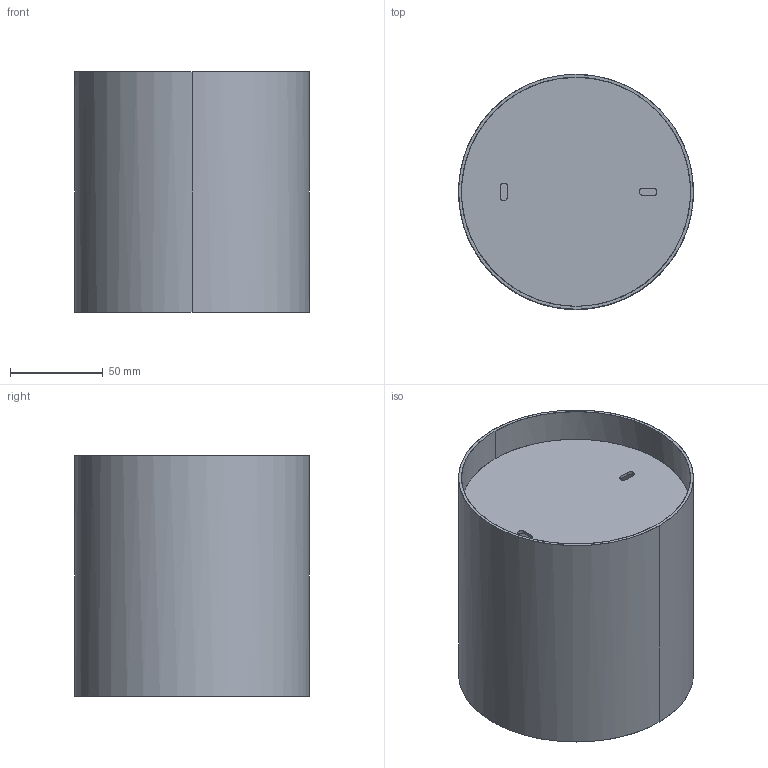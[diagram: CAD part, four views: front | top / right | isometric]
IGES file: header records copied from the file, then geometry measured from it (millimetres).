
Start section: SolidWorks IGES file using NURBS representation for surfaces
Global section: file name: Z:\Modele 3D_WWW\_KOLEKCJE_WWW\POINT\POINT-M-7602-6001-6007\POINT-M-7602-6001-6007.IGS; native system: SolidWorks 2021; preprocessor: SolidWorks 2021; author: gabriela.tworek; date: 211012.173940; units: millimetre
Bounding box: 127 x 127 x 130 mm (x, y, z)
Surface area: 166627.6 mm2 (no closed solid volume)
Topology: 0 solids, 0 shells, 2037 faces, 29152 edges, 29152 vertices
Faces by surface type: bspline 2037
